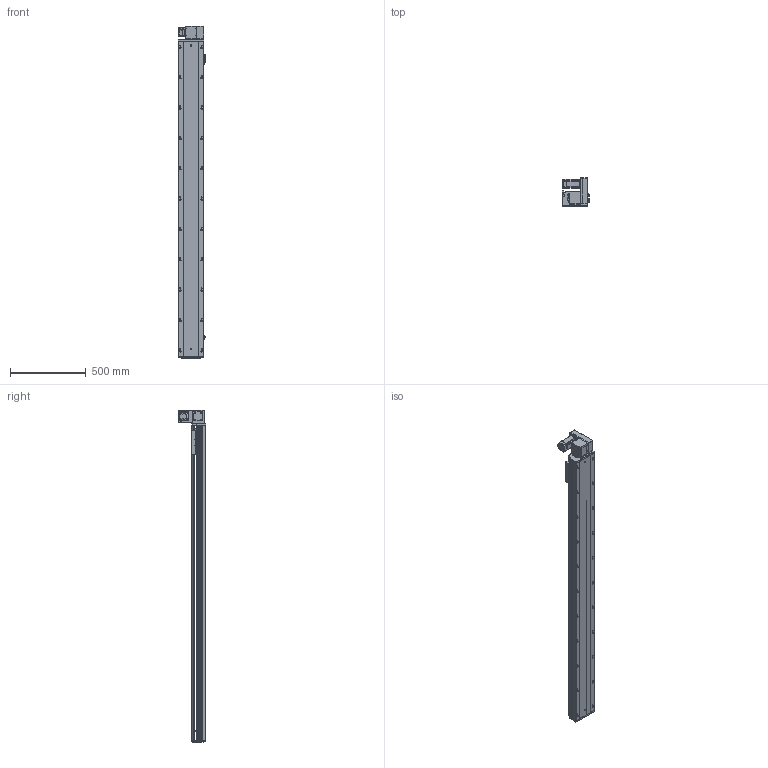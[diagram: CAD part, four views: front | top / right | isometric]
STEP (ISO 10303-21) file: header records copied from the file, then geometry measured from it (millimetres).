
FILE_DESCRIPTION (( 'STEP AP203' ), '1' );
FILE_NAME ('RY170-T-300-UR-P400W.SLDASM_1800.step', '2021-03-01T09:28:47', ( '盈信电脑' ), ( '东莞市道滘镇水果街19号' ), 'SwSTEP 2.0', 'SolidWorks 2012', '' );
FILE_SCHEMA (( 'CONFIG_CONTROL_DESIGN' ));
Length unit declared in the file: millimetre
Products named in the file (18): 滅袉蝶18-10; RY170-T蹟翐M4; 15; RY170-T-300-UR-P400W.SLDASM_1800; RY170-T肮祭湍揤踡輸1; RY170-T肮祭謫裔啣; RY120-T主同步轮轴承压盖; RY170-T肮祭湍揤踡輸2; RY170肮祭謫萇儂欶; RY170同步轮电机安装板(400W); RY170翋肮祭謫釱; 覜茼ん672; RY170綴裔啣; RY170外置感应片(200共用）; RY170肮祭謫ヶ裔啣; RY170肮祭湍臏賑輸; RY170-T-300肮祭謫倰第菁釱-DR_1800; RY170-T-300肮祭謫倰第裔啣-DR_1800
Assembly tree (22 placements, depth 2):
  RY170-T-300-UR-P400W.SLDASM_1800
    RY170-T-300肮祭謫倰第菁釱-DR_1800
    RY170肮祭湍臏賑輸
    RY170-T-300肮祭謫倰第裔啣-DR_1800
    RY170綴裔啣
    覜茼ん672  x3
    RY170外置感应片(200共用）
    RY170肮祭謫ヶ裔啣
    RY170翋肮祭謫釱
    RY170同步轮电机安装板(400W)
    RY170肮祭謫萇儂欶
    RY170-T肮祭湍揤踡輸1  x2
    RY170-T肮祭湍揤踡輸2  x2
    RY120-T主同步轮轴承压盖
    RY170-T肮祭謫裔啣
    RY170-T蹟翐M4
    滅袉蝶18-10  x2
    15
Bounding box: 183.7 x 182 x 2188 mm (x, y, z)
Volume: 10252396.8 mm3; surface area: 3525433.6 mm2
Topology: 22 solids, 22 shells, 2960 faces, 8286 edges, 5289 vertices
Faces by surface type: cylinder 1370, plane 1268, cone 292, bspline 30
Entity records: 89744 total; most frequent: CARTESIAN_POINT 20664, ORIENTED_EDGE 14168, DIRECTION 13826, EDGE_CURVE 7084, AXIS2_PLACEMENT_3D 4901, VERTEX_POINT 4645, LINE 4024, VECTOR 4024
